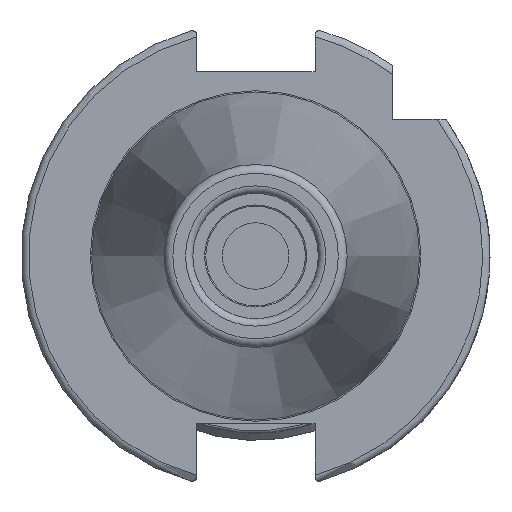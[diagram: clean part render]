
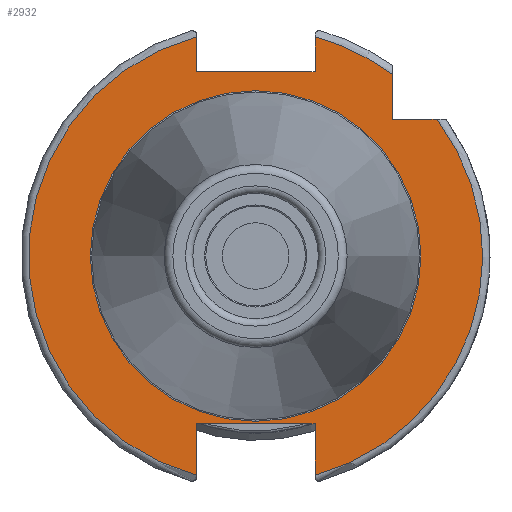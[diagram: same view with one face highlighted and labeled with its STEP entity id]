
A CAD part, left-side view. The second image highlights one B-rep face of the part: STEP entity #2932.
In plain terms, the highlighted planar face has unit normal (-1, 0, 0).
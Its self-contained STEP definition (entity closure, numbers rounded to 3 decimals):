
#178=FACE_BOUND('',#467,.T.);
#199=PLANE('',#3312);
#295=FACE_OUTER_BOUND('',#466,.T.);
#466=EDGE_LOOP('',(#2119,#2120,#2121,#2122,#2123,#2124,#2125,#2126,#2127,
#2128,#2129));
#467=EDGE_LOOP('',(#2130,#2131));
#628=LINE('',#4672,#830);
#640=LINE('',#4743,#842);
#647=LINE('',#4786,#849);
#653=LINE('',#4830,#855);
#654=LINE('',#4832,#856);
#655=LINE('',#4834,#857);
#656=LINE('',#4837,#858);
#657=LINE('',#4839,#859);
#830=VECTOR('',#3721,10.);
#842=VECTOR('',#3765,10.);
#849=VECTOR('',#3774,10.);
#855=VECTOR('',#3784,10.);
#856=VECTOR('',#3785,10.);
#857=VECTOR('',#3786,10.);
#858=VECTOR('',#3789,10.);
#859=VECTOR('',#3790,10.);
#1070=CIRCLE('',#3313,30.775);
#1071=CIRCLE('',#3314,30.775);
#1072=CIRCLE('',#3315,30.775);
#1073=CIRCLE('',#3316,22.4);
#1074=CIRCLE('',#3317,22.4);
#1245=VERTEX_POINT('',#4669);
#1246=VERTEX_POINT('',#4671);
#1264=VERTEX_POINT('',#4741);
#1265=VERTEX_POINT('',#4742);
#1274=VERTEX_POINT('',#4785);
#1283=VERTEX_POINT('',#4827);
#1284=VERTEX_POINT('',#4829);
#1285=VERTEX_POINT('',#4831);
#1286=VERTEX_POINT('',#4833);
#1287=VERTEX_POINT('',#4835);
#1288=VERTEX_POINT('',#4838);
#1289=VERTEX_POINT('',#4841);
#1290=VERTEX_POINT('',#4842);
#1565=EDGE_CURVE('',#1246,#1245,#628,.T.);
#1589=EDGE_CURVE('',#1264,#1265,#640,.T.);
#1600=EDGE_CURVE('',#1274,#1264,#647,.T.);
#1610=EDGE_CURVE('',#1283,#1265,#1070,.T.);
#1611=EDGE_CURVE('',#1283,#1284,#653,.T.);
#1612=EDGE_CURVE('',#1284,#1285,#654,.T.);
#1613=EDGE_CURVE('',#1285,#1286,#655,.T.);
#1614=EDGE_CURVE('',#1287,#1286,#1071,.T.);
#1615=EDGE_CURVE('',#1287,#1246,#656,.T.);
#1616=EDGE_CURVE('',#1245,#1288,#657,.T.);
#1617=EDGE_CURVE('',#1274,#1288,#1072,.T.);
#1618=EDGE_CURVE('',#1289,#1290,#1073,.T.);
#1619=EDGE_CURVE('',#1290,#1289,#1074,.T.);
#2119=ORIENTED_EDGE('',*,*,#1600,.T.);
#2120=ORIENTED_EDGE('',*,*,#1589,.T.);
#2121=ORIENTED_EDGE('',*,*,#1610,.F.);
#2122=ORIENTED_EDGE('',*,*,#1611,.T.);
#2123=ORIENTED_EDGE('',*,*,#1612,.T.);
#2124=ORIENTED_EDGE('',*,*,#1613,.T.);
#2125=ORIENTED_EDGE('',*,*,#1614,.F.);
#2126=ORIENTED_EDGE('',*,*,#1615,.T.);
#2127=ORIENTED_EDGE('',*,*,#1565,.T.);
#2128=ORIENTED_EDGE('',*,*,#1616,.T.);
#2129=ORIENTED_EDGE('',*,*,#1617,.F.);
#2130=ORIENTED_EDGE('',*,*,#1618,.T.);
#2131=ORIENTED_EDGE('',*,*,#1619,.T.);
#2932=ADVANCED_FACE('',(#295,#178),#199,.T.);
#3312=AXIS2_PLACEMENT_3D('',#4826,#3780,#3781);
#3313=AXIS2_PLACEMENT_3D('',#4828,#3782,#3783);
#3314=AXIS2_PLACEMENT_3D('',#4836,#3787,#3788);
#3315=AXIS2_PLACEMENT_3D('',#4840,#3791,#3792);
#3316=AXIS2_PLACEMENT_3D('',#4843,#3793,#3794);
#3317=AXIS2_PLACEMENT_3D('',#4844,#3795,#3796);
#3721=DIRECTION('',(0.,-1.,0.));
#3765=DIRECTION('',(0.,0.,1.));
#3774=DIRECTION('',(0.,1.,0.));
#3780=DIRECTION('center_axis',(-1.,0.,0.));
#3781=DIRECTION('ref_axis',(0.,0.,1.));
#3782=DIRECTION('center_axis',(1.,0.,0.));
#3783=DIRECTION('ref_axis',(0.,0.,-1.));
#3784=DIRECTION('',(0.,0.,-1.));
#3785=DIRECTION('',(0.,1.,0.));
#3786=DIRECTION('',(0.,0.,1.));
#3787=DIRECTION('center_axis',(1.,0.,0.));
#3788=DIRECTION('ref_axis',(0.,0.,-1.));
#3789=DIRECTION('',(0.,0.,1.));
#3790=DIRECTION('',(0.,0.,-1.));
#3791=DIRECTION('center_axis',(1.,0.,0.));
#3792=DIRECTION('ref_axis',(0.,0.,-1.));
#3793=DIRECTION('center_axis',(1.,0.,0.));
#3794=DIRECTION('ref_axis',(0.,0.,-1.));
#3795=DIRECTION('center_axis',(1.,0.,0.));
#3796=DIRECTION('ref_axis',(0.,0.,-1.));
#4669=CARTESIAN_POINT('',(3.2,-8.05,-22.7));
#4671=CARTESIAN_POINT('',(3.2,8.05,-22.7));
#4672=CARTESIAN_POINT('',(3.2,15.388,-22.7));
#4741=CARTESIAN_POINT('',(3.2,-18.5,18.5));
#4742=CARTESIAN_POINT('',(3.2,-18.5,24.594));
#4743=CARTESIAN_POINT('',(3.2,-18.5,14.25));
#4785=CARTESIAN_POINT('',(3.2,-24.594,18.5));
#4786=CARTESIAN_POINT('',(3.2,6.138,18.5));
#4826=CARTESIAN_POINT('Origin',(3.2,30.775,0.));
#4827=CARTESIAN_POINT('',(3.2,-8.05,29.704));
#4828=CARTESIAN_POINT('Origin',(3.2,0.,0.));
#4829=CARTESIAN_POINT('',(3.2,-8.05,25.));
#4830=CARTESIAN_POINT('',(3.2,-8.05,12.5));
#4831=CARTESIAN_POINT('',(3.2,8.05,25.));
#4832=CARTESIAN_POINT('',(3.2,15.388,25.));
#4833=CARTESIAN_POINT('',(3.2,8.05,29.704));
#4834=CARTESIAN_POINT('',(3.2,8.05,12.5));
#4835=CARTESIAN_POINT('',(3.2,8.05,-29.704));
#4836=CARTESIAN_POINT('Origin',(3.2,0.,0.));
#4837=CARTESIAN_POINT('',(3.2,8.05,-11.35));
#4838=CARTESIAN_POINT('',(3.2,-8.05,-29.704));
#4839=CARTESIAN_POINT('',(3.2,-8.05,-11.35));
#4840=CARTESIAN_POINT('Origin',(3.2,0.,0.));
#4841=CARTESIAN_POINT('',(3.2,22.4,0.));
#4842=CARTESIAN_POINT('',(3.2,0.,22.4));
#4843=CARTESIAN_POINT('Origin',(3.2,0.,0.));
#4844=CARTESIAN_POINT('Origin',(3.2,0.,0.));
